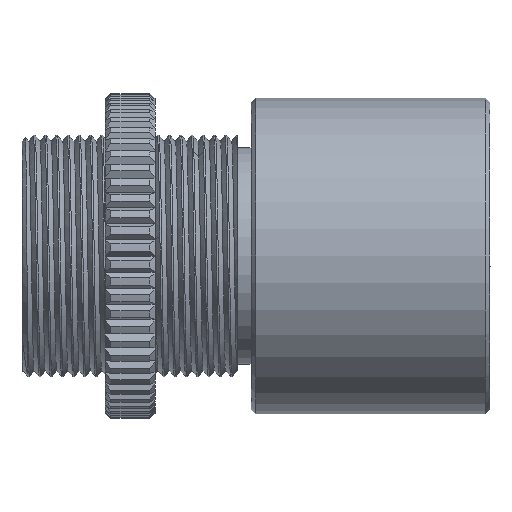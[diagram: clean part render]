
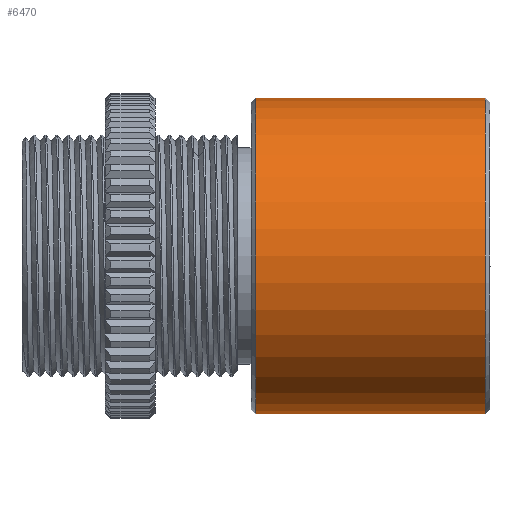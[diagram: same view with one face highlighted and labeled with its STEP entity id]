
A CAD part, front view. The second image highlights one B-rep face of the part: STEP entity #6470.
In plain terms, the highlighted cylindrical face has radius 8.89 mm (diameter 17.78 mm), a partial arc.
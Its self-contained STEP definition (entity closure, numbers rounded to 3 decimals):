
#39=CARTESIAN_POINT('',(-0.254,0.,0.));
#40=DIRECTION('',(1.,0.,0.));
#41=DIRECTION('',(0.,0.,1.));
#42=AXIS2_PLACEMENT_3D('',#39,#40,#41);
#53=DIRECTION('',(-1.,0.,0.));
#54=VECTOR('',#53,12.954);
#55=CARTESIAN_POINT('',(-0.254,0.,-8.89));
#56=LINE('',#55,#54);
#90=CARTESIAN_POINT('',(-13.208,0.,0.));
#91=DIRECTION('',(-1.,0.,0.));
#92=DIRECTION('',(0.,0.,-1.));
#93=AXIS2_PLACEMENT_3D('',#90,#91,#92);
#95=DIRECTION('',(-1.,0.,0.));
#96=VECTOR('',#95,12.954);
#97=CARTESIAN_POINT('',(-0.254,0.,8.89));
#98=LINE('',#97,#96);
#6107=CARTESIAN_POINT('',(-0.254,0.,8.89));
#6108=CARTESIAN_POINT('',(-13.208,0.,8.89));
#6109=VERTEX_POINT('',#6107);
#6110=VERTEX_POINT('',#6108);
#6115=CARTESIAN_POINT('',(-0.254,0.,-8.89));
#6116=CARTESIAN_POINT('',(-13.208,0.,-8.89));
#6117=VERTEX_POINT('',#6115);
#6118=VERTEX_POINT('',#6116);
#6459=CARTESIAN_POINT('',(0.,0.,0.));
#6460=DIRECTION('',(1.,0.,0.));
#6461=DIRECTION('',(0.,0.,-1.));
#6462=AXIS2_PLACEMENT_3D('',#6459,#6460,#6461);
#6463=CYLINDRICAL_SURFACE('',#6462,8.89);
#6464=ORIENTED_EDGE('',*,*,#6409,.F.);
#6465=ORIENTED_EDGE('',*,*,#6378,.T.);
#6466=ORIENTED_EDGE('',*,*,#6406,.T.);
#6467=ORIENTED_EDGE('',*,*,#6452,.T.);
#6468=EDGE_LOOP('',(#6464,#6465,#6466,#6467));
#6469=FACE_OUTER_BOUND('',#6468,.F.);
#6470=ADVANCED_FACE('',(#6469),#6463,.T.);
#43=CIRCLE('',#42,8.89);
#94=CIRCLE('',#93,8.89);
#6378=EDGE_CURVE('',#6109,#6117,#43,.T.);
#6406=EDGE_CURVE('',#6117,#6118,#56,.T.);
#6409=EDGE_CURVE('',#6109,#6110,#98,.T.);
#6452=EDGE_CURVE('',#6118,#6110,#94,.T.);
